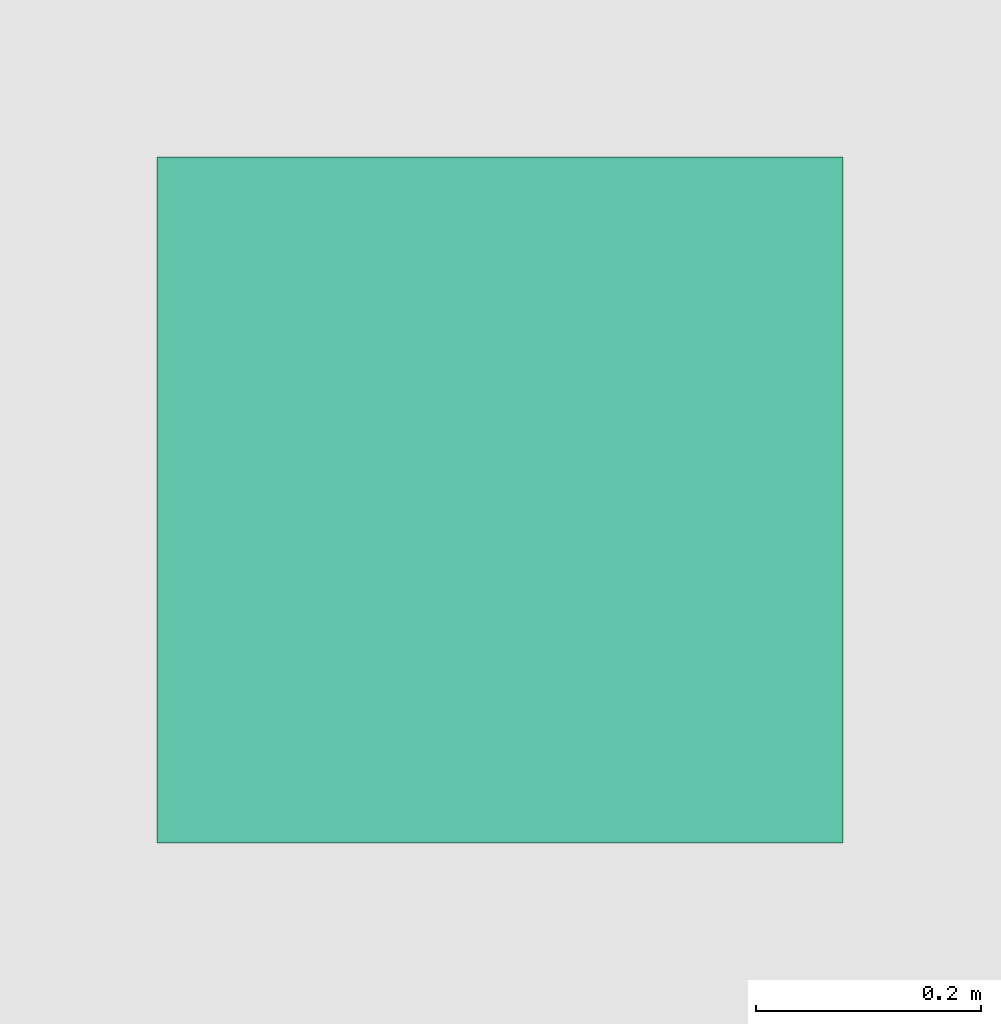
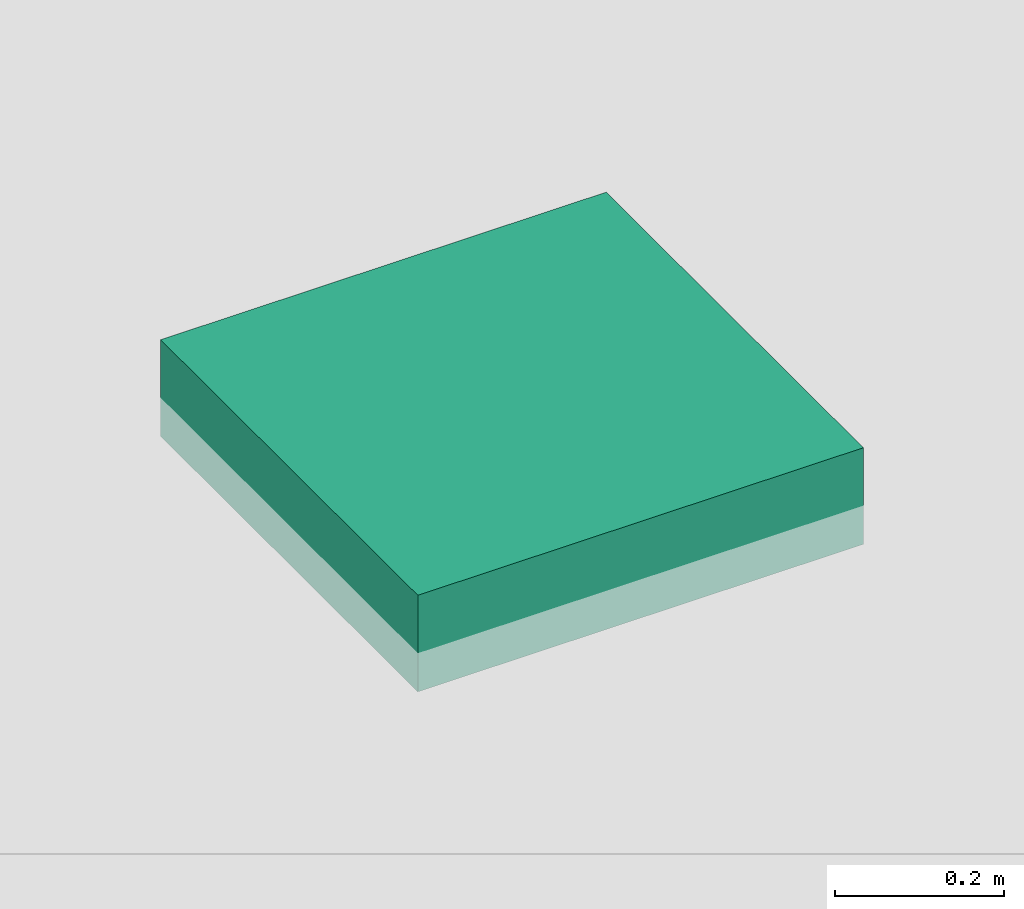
# One storey, part 9 of 24: 1 flow terminal.
"""IFC2X3 building model written with IfcOpenShell, lengths in millimetres."""

from ifc_helpers import new_model, entity, si_unit, converted_unit, derived_unit, direction, frame, frame_2d, origin, place, context, subcontext, project, spatial, polyline, rectangle, outline, extrude, source, transform, mapped, material, material_list, type_object, type_shapes, element, save


model = new_model("IFC2X3")

# Units and contexts
model_context = context("Model", 3, precision=0.01, world=origin(), true_north=direction((6.123031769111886e-17, 1.0)))
body_context = subcontext(model_context, "Body", "Model", "MODEL_VIEW")
ifc_project = project(units=[si_unit("LENGTHUNIT", "METRE", prefix="MILLI"), si_unit("AREAUNIT", "SQUARE_METRE"), si_unit("VOLUMEUNIT", "CUBIC_METRE"), converted_unit("PLANEANGLEUNIT", "DEGREE", entity("IfcRatioMeasure", 0.017453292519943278), si_unit("PLANEANGLEUNIT", "RADIAN"), dimensions=[0, 0, 0, 0, 0, 0, 0]), si_unit("MASSUNIT", "GRAM", prefix="KILO"), derived_unit("MASSDENSITYUNIT", [(si_unit("MASSUNIT", "GRAM", prefix="KILO"), 1), (si_unit("LENGTHUNIT", "METRE"), -3)]), derived_unit("MOMENTOFINERTIAUNIT", [(si_unit("LENGTHUNIT", "METRE"), 4)]), si_unit("TIMEUNIT", "SECOND"), si_unit("FREQUENCYUNIT", "HERTZ"), si_unit("THERMODYNAMICTEMPERATUREUNIT", "DEGREE_CELSIUS"), derived_unit("THERMALTRANSMITTANCEUNIT", [(si_unit("MASSUNIT", "GRAM", prefix="KILO"), 1), (si_unit("THERMODYNAMICTEMPERATUREUNIT", "KELVIN"), -1), (si_unit("TIMEUNIT", "SECOND"), -3)]), derived_unit("VOLUMETRICFLOWRATEUNIT", [(si_unit("LENGTHUNIT", "METRE"), 3), (si_unit("TIMEUNIT", "SECOND"), -1)]), derived_unit("MASSFLOWRATEUNIT", [(si_unit("MASSUNIT", "GRAM", prefix="KILO"), 1), (si_unit("TIMEUNIT", "SECOND"), -1)]), derived_unit("ROTATIONALFREQUENCYUNIT", [(si_unit("TIMEUNIT", "SECOND"), -1)]), si_unit("ELECTRICCURRENTUNIT", "AMPERE"), si_unit("ELECTRICVOLTAGEUNIT", "VOLT"), si_unit("POWERUNIT", "WATT"), si_unit("FORCEUNIT", "NEWTON", prefix="KILO"), si_unit("ILLUMINANCEUNIT", "LUX"), si_unit("LUMINOUSFLUXUNIT", "LUMEN"), si_unit("LUMINOUSINTENSITYUNIT", "CANDELA"), derived_unit("USERDEFINED", [(si_unit("MASSUNIT", "GRAM", prefix="KILO"), -1), (si_unit("LENGTHUNIT", "METRE"), -2), (si_unit("TIMEUNIT", "SECOND"), 3), (si_unit("LUMINOUSFLUXUNIT", "LUMEN"), 1)]), derived_unit("SOUNDPOWERUNIT", [(si_unit("MASSUNIT", "GRAM", prefix="KILO"), 1), (si_unit("LENGTHUNIT", "METRE"), 2), (si_unit("TIMEUNIT", "SECOND"), -3)]), derived_unit("SOUNDPRESSUREUNIT", [(si_unit("MASSUNIT", "GRAM", prefix="KILO"), 1), (si_unit("LENGTHUNIT", "METRE"), -1), (si_unit("TIMEUNIT", "SECOND"), -2)]), derived_unit("LINEARVELOCITYUNIT", [(si_unit("LENGTHUNIT", "METRE"), 1), (si_unit("TIMEUNIT", "SECOND"), -1)]), si_unit("PRESSUREUNIT", "PASCAL"), derived_unit("USERDEFINED", [(si_unit("LENGTHUNIT", "METRE"), -2), (si_unit("MASSUNIT", "GRAM", prefix="KILO"), 1), (si_unit("TIMEUNIT", "SECOND"), -2)]), derived_unit("LINEARFORCEUNIT", [(si_unit("MASSUNIT", "GRAM", prefix="KILO"), 1), (si_unit("LENGTHUNIT", "METRE"), 1), (si_unit("TIMEUNIT", "SECOND"), -2), (si_unit("LENGTHUNIT", "METRE"), -1)]), derived_unit("PLANARFORCEUNIT", [(si_unit("MASSUNIT", "GRAM", prefix="KILO"), 1), (si_unit("LENGTHUNIT", "METRE"), 1), (si_unit("TIMEUNIT", "SECOND"), -2), (si_unit("LENGTHUNIT", "METRE"), -2)])], contexts=[model_context])

# Site, building, storey
site_placement = place(None, origin())
site = spatial("IfcSite", under=ifc_project, at=site_placement, Name="Default", CompositionType="ELEMENT")
building_placement = place(site_placement, origin())
building = spatial("IfcBuilding", under=site, at=building_placement, CompositionType="ELEMENT")
storey_placement = place(building_placement, origin())
storey = spatial("IfcBuildingStorey", under=building, at=storey_placement, Name="Level 1", CompositionType="ELEMENT", Elevation=0.0)

# Flow terminal
ifc_material_1 = material(Name="Glass, White, High Luminance")
ifc_material_2 = material(Name="Steel, Chrome Plated 155972")
ifc_material_list_1 = material_list([ifc_material_1, ifc_material_2, ifc_material_1, ifc_material_2])
ifc_material_list_2 = material_list([ifc_material_1, ifc_material_2, ifc_material_1, ifc_material_2])
light_fixture_type = type_object("IfcLightFixtureType", Name="M_Troffer Light - Parabolic Square control rooms:0600x0600mm(2 Lamp) - 120V:0600x0600mm(2 Lamp) - 120V : M_Troffer Light - Parabolic Square control rooms:0600x0600mm(2 Lamp) - 120V", PredefinedType="NOTDEFINED", material=ifc_material_list_2)
shared_shape = source(origin(), body_context, "Body", "SweptSolid", [
    extrude(rectangle(XDim=558.799999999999, YDim=558.7999999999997, at=frame_2d((-2.5579538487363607e-13, -5.400124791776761e-13), x_axis=(1.0, 0.0))), frame((9139.43325815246, 3038.328881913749, 2676.199999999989), z_axis=(0.0, 0.0, 1.0), x_axis=(0.0, 1.0, 0.0)), (0.0, 0.0, 1.0), 6.350000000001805),
    extrude(outline(polyline([(-304.8000000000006, -304.8), (304.8, -304.8), (304.8, 304.79999999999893), (-304.8000000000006, 304.79999999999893), (-304.8000000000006, -304.8)]), holes=[polyline([(279.4000000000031, 279.39999999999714), (279.4000000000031, -279.40000000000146), (-279.39999999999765, -279.40000000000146), (-279.39999999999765, 279.39999999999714), (279.4000000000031, 279.39999999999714)])]), frame((9139.43325815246, 3038.328881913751, 2600.0), z_axis=(0.0, 0.0, 1.0), x_axis=(0.0, -1.0, 0.0)), (0.0, 0.0, 1.0), 114.29999999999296),
    extrude(rectangle(XDim=558.8000000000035, YDim=558.7999999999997, at=frame_2d((2.8421709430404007e-13, -5.400124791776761e-13), x_axis=(1.0, 0.0))), frame((9139.43325815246, 3038.32888191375, 2590.0), z_axis=(0.0, 0.0, 1.0), x_axis=(0.0, 1.0, 0.0)), (0.0, 0.0, 1.0), 59.99999999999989),
    extrude(rectangle(XDim=609.6000000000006, YDim=609.6000000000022, at=frame_2d((2.8421709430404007e-13, 0.0), x_axis=(1.0, 0.0))), frame((9139.43325815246, 3038.328881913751, 2714.2999999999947), z_axis=(0.0, 0.0, 1.0), x_axis=(0.0, 1.0, 0.0)), (0.0, 0.0, 1.0), 25.399999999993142),
])
type_shapes(light_fixture_type, [shared_shape])
flow_terminal_placement = place(storey_placement, origin())
element("IfcFlowTerminal", 1, at=flow_terminal_placement, inside=storey, type_object=light_fixture_type, material=ifc_material_list_1, context=body_context, shape_type="MappedRepresentation", body=[
    mapped(shared_shape, transform((0.0, 0.0, 0.0), scale=1.0)),
])

save(model, "model.ifc")
